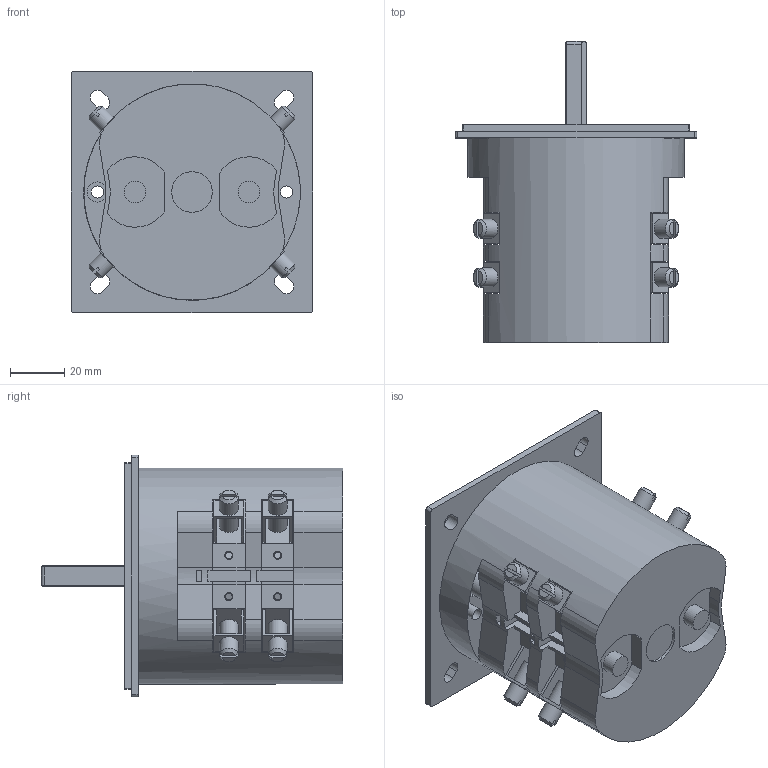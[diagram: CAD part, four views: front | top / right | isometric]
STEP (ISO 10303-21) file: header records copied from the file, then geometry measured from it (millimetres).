
FILE_DESCRIPTION(/* description */ (''),/* implementation_level */ '2;1');
FILE_NAME(/* name */ '4G80-U_2_korpusy.stp',/* time_stamp */ '2021-07-22T07:10:55+02:00',/* author */ (''),/* organization */ (''),/* preprocessor_version */ 'ST-DEVELOPER v18.1',/* originating_system */ 'SIEMENS PLM Software NX 1965',/* authorisation */ '');
FILE_SCHEMA (('FEATURE_BASED_PROCESS_PLANNING','PROCESS_PLANNING_SCHEMA','AP242_MANAGED_MODEL_BASED_3D_ENGINEERING_MIM_LF { 1 0 10303 442 1 1 4 }'));
Length unit declared in the file: millimetre
Products named in the file (1): 4G80-U_2_korpusy_stp
Bounding box: 89.2 x 111.25 x 89.2 mm (x, y, z)
Volume: 358689.4 mm3; surface area: 60754.7 mm2
Topology: 1 solids, 9 shells, 439 faces, 1142 edges, 757 vertices
Faces by surface type: plane 300, cylinder 112, cone 24, bspline 3
Full cylindrical faces by diameter (mm): 2.5 x8, 4.5 x2, 7 x16, 7.5 x2, 8 x4, 8.5 x2, 11.6 x2, 12 x3, 15 x1, 80 x1
Entity records: 13502 total; most frequent: CARTESIAN_POINT 2951, DIRECTION 2153, ORIENTED_EDGE 2106, EDGE_CURVE 1053, LINE 723, VECTOR 723, VERTEX_POINT 722, AXIS2_PLACEMENT_3D 715
